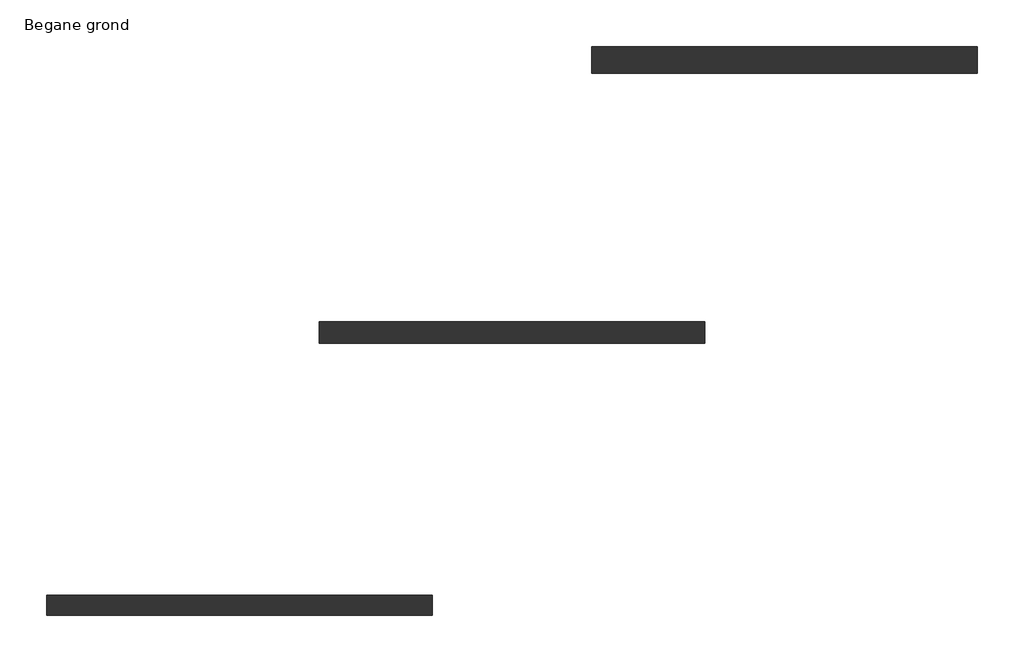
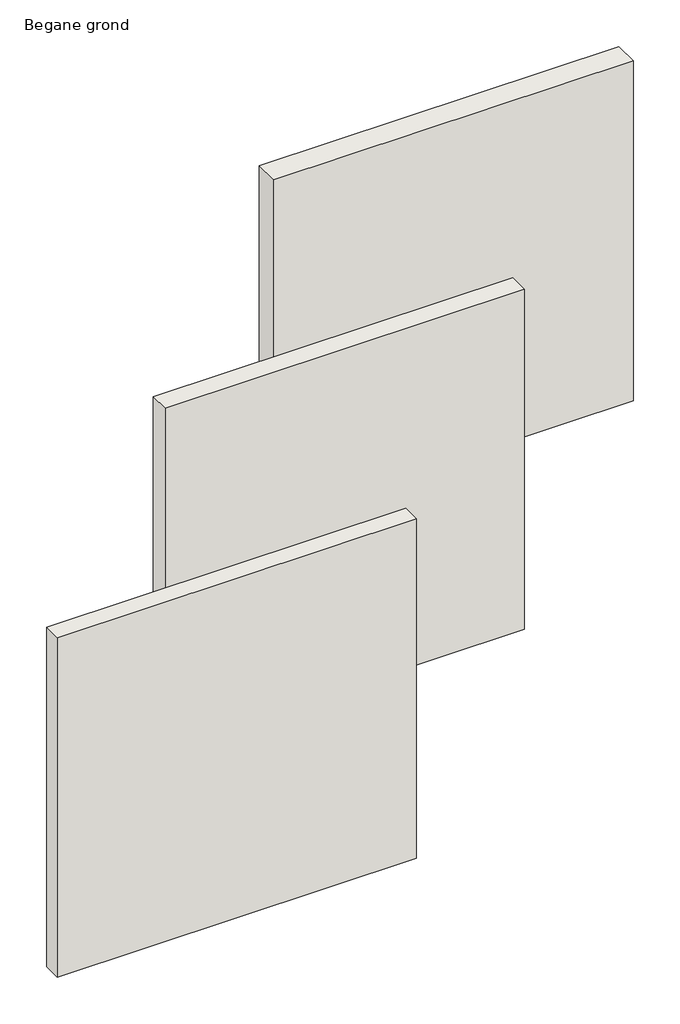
# One storey: 3 walls.
"""IFC4 building model written with IfcOpenShell, lengths in millimetres."""

from ifc_helpers import new_model, si_unit, origin, origin_with_axes, place, context, project, spatial, polyline, outline, extrude, element, save

model = new_model("IFC4")

# Units and contexts
model_context = context("Model", 3, world=origin())
ifc_project = project(units=[si_unit("LENGTHUNIT", "METRE", prefix="MILLI")], contexts=[model_context])

# Site, building, storey
site = spatial("IfcSite", under=ifc_project)
building = spatial("IfcBuilding", under=site)
storey = spatial("IfcBuildingStorey", under=building, Name="Begane grond", Elevation=0.0)

# Walls
placement = place(None, origin())
element("IfcWall", 1, ObjectType="NLRS_22_WA_Supafil Cavity XL_Spouwbreedte_154mm", at=placement, inside=storey, context=model_context, shape_type="SweptSolid", body=[
    extrude(outline(polyline([(4593.5162095, 2093.8229426), (1593.5162095, 2093.8229426), (1593.5162095, 2247.8229426), (4593.5162095, 2247.8229426), (4593.5162095, 2093.8229426)])), origin_with_axes(), (0.0, 0.0, 1.0), 3000.0),
])
element("IfcWall", 2, ObjectType="NLRS_22_WA_Supafil Cavity XL_Spouwbreedte_171mm", at=placement, inside=storey, context=model_context, shape_type="SweptSolid", body=[
    extrude(outline(polyline([(6714.836553, 4206.6432862), (3714.836553, 4206.6432862), (3714.836553, 4377.6432862), (6714.836553, 4377.6432862), (6714.836553, 4206.6432862)])), origin_with_axes(), (0.0, 0.0, 1.0), 3000.0),
])
element("IfcWall", 3, ObjectType="NLRS_22_WA_Supafil Cavity XL_Spouwbreedte_207mm", at=placement, inside=storey, context=model_context, shape_type="SweptSolid", body=[
    extrude(outline(polyline([(8836.1568966, 6309.9636298), (5836.1568966, 6309.9636298), (5836.1568966, 6516.9636298), (8836.1568966, 6516.9636298), (8836.1568966, 6309.9636298)])), origin_with_axes(), (0.0, 0.0, 1.0), 3000.0),
])

save(model, "model.ifc")
